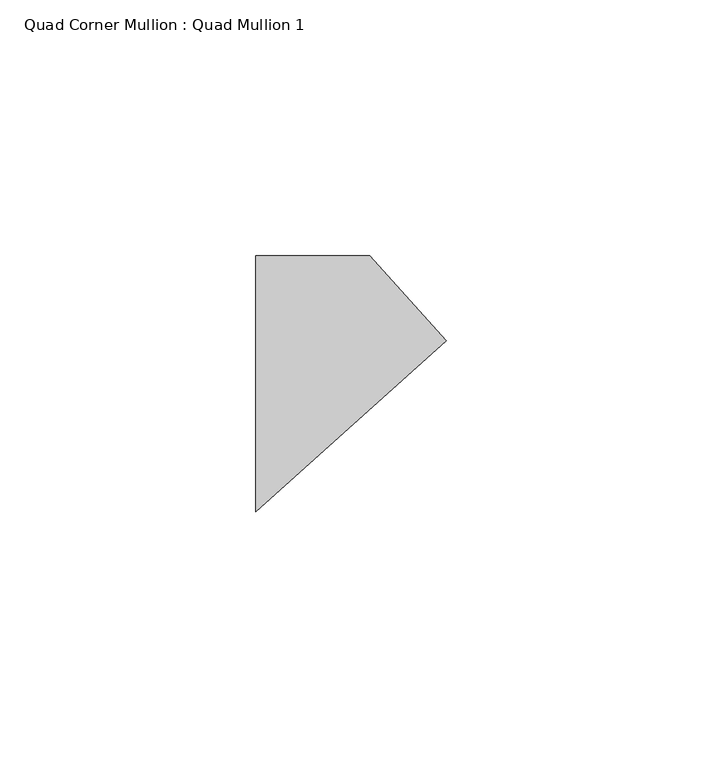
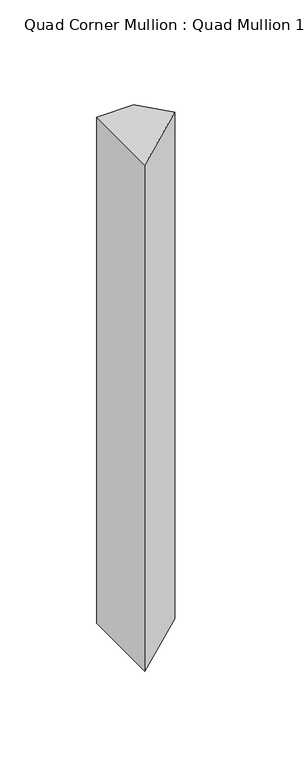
"""IFC4 building model written with IfcOpenShell, lengths in millimetres: member geometry, Quad Corner Mullion : Quad Mullion 1."""

from ifc_helpers import new_model, si_unit, frame, origin, place, context, project, spatial, polyline, outline, extrude, source, transform, mapped, element, save


def quad_corner_mullion_quad_mullion_1_09579c17(model_context):
    return source(origin(), model_context, "Body", "SweptSolid", [
        extrude(outline(polyline([(26.0265241, 8.4565303), (-11.1307171, -25.0), (-11.1307171, 25.0), (11.1307171, 25.0), (26.0265241, 8.4565303)])), frame((0.0, 0.0, -320.0), z_axis=(0.0, 0.0, 1.0), x_axis=(1.0, 0.0, 0.0)), (0.0, 0.0, 1.0), 320.0),
    ])


if __name__ == "__main__":
    model = new_model("IFC4")
    model_context = context("Model", 3, world=origin())
    ifc_project = project(units=[si_unit("LENGTHUNIT", "METRE", prefix="MILLI")], contexts=[model_context])
    site = spatial("IfcSite", under=ifc_project)
    building = spatial("IfcBuilding", under=site)
    placement = place(None, origin())
    quad_corner_mullion_quad_mullion_1_shape = quad_corner_mullion_quad_mullion_1_09579c17(model_context)
    element("IfcMember", 1, ObjectType="Quad Corner Mullion : Quad Mullion 1", at=placement, inside=building, context=model_context, shape_type="MappedRepresentation", body=[
        mapped(quad_corner_mullion_quad_mullion_1_shape, transform((0.0, 0.0, 0.0), x_axis=(1.0, 0.0, 0.0), y_axis=(0.0, 1.0, 0.0), z_axis=(0.0, 0.0, 1.0))),
    ])
    save(model, "model.ifc")
